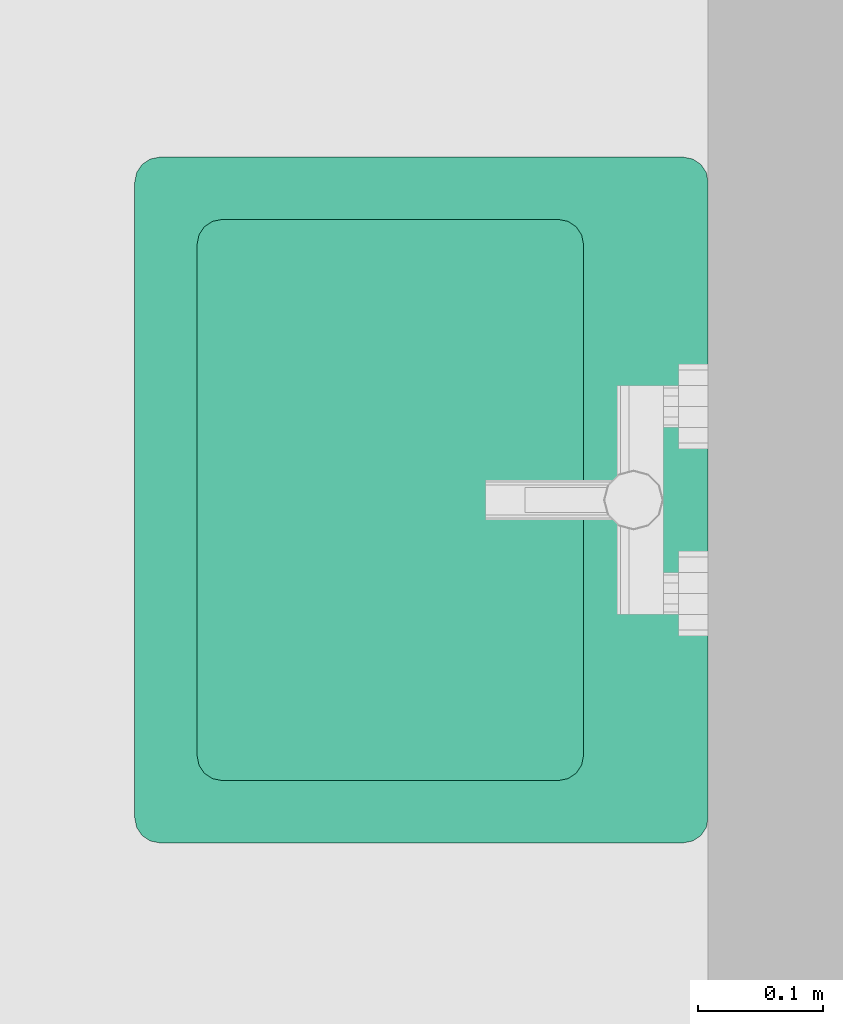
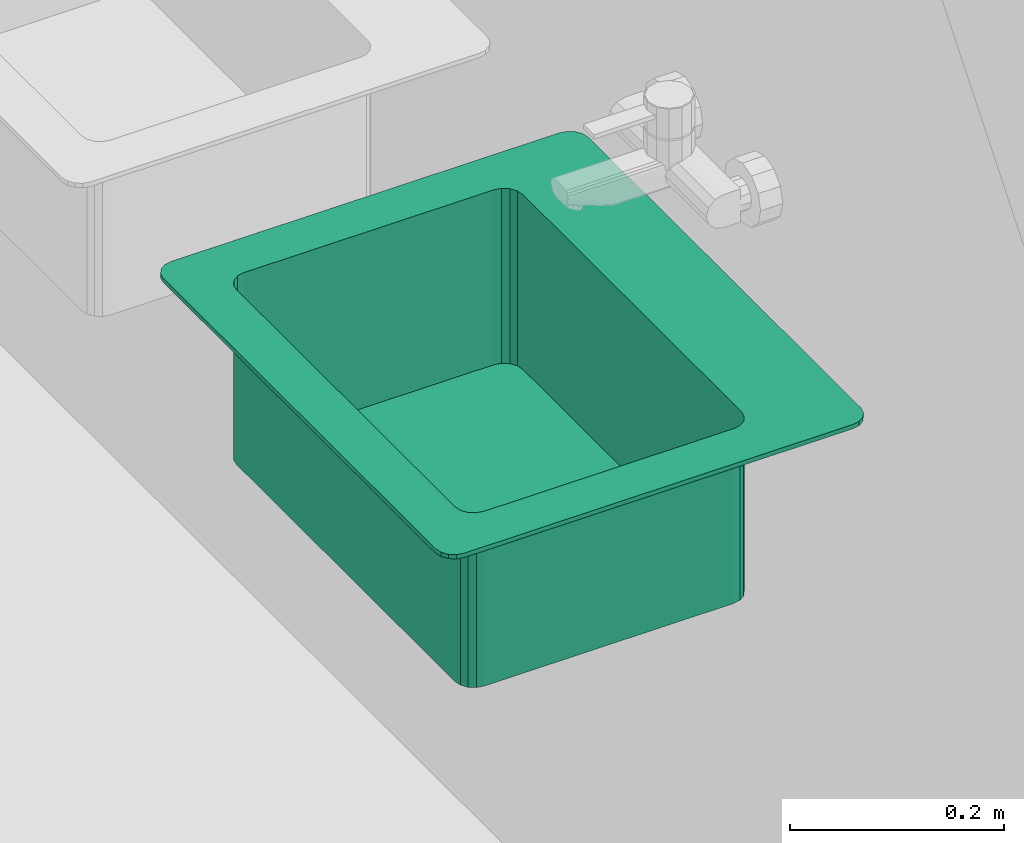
# One storey, part 249 of 301: 1 flow terminal.
"""IFC2X3 building model written with IfcOpenShell, lengths in millimetres."""

from ifc_helpers import new_model, entity, si_unit, converted_unit, derived_unit, money_unit, direction, frame, origin_with_axes, place, context, subcontext, project, spatial, open_shell, faceted_brep, surface_model, source, transform, mapped, type_object, element, save


model = new_model("IFC2X3")

# Units and contexts
model_context = context("Model", 3, precision=0.01, world=origin_with_axes(), true_north=direction((0.0, 1.0)))
body_context = subcontext(model_context, "Body", "Model", "MODEL_VIEW")
ifc_project = project(units=[si_unit("LENGTHUNIT", "METRE", prefix="MILLI"), si_unit("AREAUNIT", "SQUARE_METRE"), si_unit("VOLUMEUNIT", "CUBIC_METRE"), converted_unit("PLANEANGLEUNIT", "DEGREE", entity("IfcPlaneAngleMeasure", 0.0174532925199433), si_unit("PLANEANGLEUNIT", "RADIAN"), dimensions=[0, 0, 0, 0, 0, 0, 0]), money_unit("EUR"), converted_unit("TIMEUNIT", "Year", entity("IfcTimeMeasure", 31557600.0), si_unit("TIMEUNIT", "SECOND"), dimensions=[0, 0, 1, 0, 0, 0, 0]), si_unit("MASSUNIT", "GRAM", prefix="KILO"), si_unit("THERMODYNAMICTEMPERATUREUNIT", "DEGREE_CELSIUS"), si_unit("LUMINOUSINTENSITYUNIT", "LUMEN"), si_unit("ENERGYUNIT", "JOULE", prefix="MEGA"), derived_unit("THERMALCONDUCTANCEUNIT", [(si_unit("POWERUNIT", "WATT"), 1), (si_unit("LENGTHUNIT", "METRE"), -1), (si_unit("THERMODYNAMICTEMPERATUREUNIT", "KELVIN"), -1)]), derived_unit("SPECIFICHEATCAPACITYUNIT", [(si_unit("ENERGYUNIT", "JOULE"), 1), (si_unit("MASSUNIT", "GRAM", prefix="KILO"), -1), (si_unit("THERMODYNAMICTEMPERATUREUNIT", "KELVIN"), -1)]), derived_unit("MASSDENSITYUNIT", [(si_unit("MASSUNIT", "GRAM", prefix="KILO"), 1), (si_unit("VOLUMEUNIT", "CUBIC_METRE"), -1)])], contexts=[model_context])

# Site, building, storey
site_placement = place(None, frame((0.0, 0.0, 8650.0), z_axis=(0.0, 0.0, 1.0), x_axis=(1.0, 0.0, 0.0)))
site = spatial("IfcSite", under=ifc_project, at=site_placement, Name="43301:001:0844", CompositionType="ELEMENT")
building_placement = place(site_placement, origin_with_axes())
building = spatial("IfcBuilding", under=site, at=building_placement, Name="Kuressaare Ametikooli tuulikute mehaanikute õppekorpus", CompositionType="ELEMENT")
storey_placement = place(building_placement, origin_with_axes())
storey = spatial("IfcBuildingStorey", under=building, at=storey_placement, Name="1.korrus", CompositionType="ELEMENT", Elevation=0.0)

# Flow terminal
sanitary_terminal_type = type_object("IfcSanitaryTerminalType", Name="Sink General 27", PredefinedType="NOTDEFINED")
shared_shape = source(origin_with_axes(), body_context, "Body", "SurfaceModel", [
    surface_model("IfcShellBasedSurfaceModel", [(-70.0, 50.0, 705.0), (-70.0, 50.0, 899.9999999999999), (-479.9999999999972, 50.0, 899.9999999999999), (-479.9999999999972, 50.0, 705.0), (-62.34633135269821, 51.52240934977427, 705.0), (-62.34633135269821, 51.52240934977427, 899.9999999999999), (-487.6536686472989, 51.52240934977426, 899.9999999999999), (-487.6536686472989, 51.52240934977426, 705.0), (-494.1421356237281, 55.85786437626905, 705.0), (-498.4775906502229, 62.3463313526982, 705.0), (-499.9999999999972, 70.0, 705.0), (-499.9999999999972, 340.0000000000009, 705.0), (-498.4775906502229, 347.6536686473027, 705.0), (-494.1421356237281, 354.1421356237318, 705.0), (-487.653668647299, 358.4775906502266, 705.0), (-479.9999999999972, 360.0000000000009, 705.0), (-70.0, 360.0000000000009, 705.0), (-62.34633135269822, 358.4775906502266, 705.0), (-55.85786437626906, 354.1421356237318, 705.0), (-51.52240934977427, 347.6536686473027, 705.0), (-50.0, 340.0000000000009, 705.0), (-50.0, 70.0, 705.0), (-51.52240934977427, 62.34633135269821, 705.0), (-55.85786437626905, 55.85786437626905, 705.0), (-55.85786437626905, 55.85786437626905, 899.9999999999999), (-494.1421356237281, 55.85786437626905, 899.9999999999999), (-498.4775906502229, 62.3463313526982, 899.9999999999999), (-499.9999999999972, 70.0, 899.9999999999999), (-499.9999999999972, 340.0000000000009, 899.9999999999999), (-498.4775906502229, 347.6536686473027, 899.9999999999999), (-494.1421356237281, 354.1421356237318, 899.9999999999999), (-487.653668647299, 358.4775906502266, 899.9999999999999), (-479.9999999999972, 360.0000000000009, 899.9999999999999), (-70.0, 360.0000000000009, 899.9999999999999), (-62.34633135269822, 358.4775906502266, 899.9999999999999), (-55.85786437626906, 354.1421356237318, 899.9999999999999), (-51.52240934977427, 347.6536686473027, 899.9999999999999), (-50.0, 340.0000000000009, 899.9999999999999), (-50.0, 70.0, 899.9999999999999), (-51.52240934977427, 62.34633135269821, 899.9999999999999)], [open_shell([[[0, 1, 2, 3]], [[4, 5, 1, 0]], [[3, 2, 6, 7]], [[0, 3, 7, 8, 9, 10, 11, 12, 13, 14, 15, 16, 17, 18, 19, 20, 21, 22, 23, 4]], [[23, 24, 5, 4]], [[7, 6, 25, 8]], [[8, 25, 26, 9]], [[9, 26, 27, 10]], [[10, 27, 28, 11]], [[11, 28, 29, 12]], [[12, 29, 30, 13]], [[13, 30, 31, 14]], [[14, 31, 32, 15]], [[15, 32, 33, 16]], [[16, 33, 34, 17]], [[17, 34, 35, 18]], [[18, 35, 36, 19]], [[19, 36, 37, 20]], [[20, 37, 38, 21]], [[21, 38, 39, 22]], [[22, 39, 24, 23]]])]),
    faceted_brep([(-20.0, 0.0, 899.9999999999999), (-20.0, 0.0, 904.9999999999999), (-529.9999999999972, 0.0, 904.9999999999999), (-529.9999999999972, 0.0, 899.9999999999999), (-12.34633135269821, 1.522409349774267, 899.9999999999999), (-12.34633135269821, 1.522409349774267, 904.9999999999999), (-5.857864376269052, 5.857864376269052, 904.9999999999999), (-1.522409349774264, 12.34633135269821, 904.9999999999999), (0.0, 20.0, 904.9999999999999), (0.0, 440.0000000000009, 904.9999999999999), (-1.522409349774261, 447.6536686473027, 904.9999999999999), (-5.85786437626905, 454.1421356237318, 904.9999999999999), (-12.34633135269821, 458.4775906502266, 904.9999999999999), (-20.0, 460.0000000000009, 904.9999999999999), (-529.9999999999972, 460.0000000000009, 904.9999999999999), (-537.6536686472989, 458.4775906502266, 904.9999999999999), (-544.1421356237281, 454.1421356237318, 904.9999999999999), (-548.4775906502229, 447.6536686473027, 904.9999999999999), (-549.9999999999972, 440.0000000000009, 904.9999999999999), (-549.9999999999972, 20.0, 904.9999999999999), (-548.4775906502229, 12.3463313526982, 904.9999999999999), (-544.142135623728, 5.857864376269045, 904.9999999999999), (-537.6536686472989, 1.522409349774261, 904.9999999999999), (-70.0, 50.0, 904.9999999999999), (-479.9999999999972, 50.0, 904.9999999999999), (-487.6536686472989, 51.52240934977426, 904.9999999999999), (-494.1421356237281, 55.85786437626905, 904.9999999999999), (-498.4775906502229, 62.3463313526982, 904.9999999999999), (-499.9999999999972, 70.0, 904.9999999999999), (-499.9999999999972, 340.0000000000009, 904.9999999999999), (-498.4775906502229, 347.6536686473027, 904.9999999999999), (-494.1421356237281, 354.1421356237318, 904.9999999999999), (-487.653668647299, 358.4775906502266, 904.9999999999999), (-479.9999999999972, 360.0000000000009, 904.9999999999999), (-70.0, 360.0000000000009, 904.9999999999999), (-62.34633135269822, 358.4775906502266, 904.9999999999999), (-55.85786437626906, 354.1421356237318, 904.9999999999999), (-51.52240934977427, 347.6536686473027, 904.9999999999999), (-50.0, 340.0000000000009, 904.9999999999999), (-50.0, 70.0, 904.9999999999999), (-51.52240934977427, 62.34633135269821, 904.9999999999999), (-55.85786437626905, 55.85786437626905, 904.9999999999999), (-62.34633135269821, 51.52240934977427, 904.9999999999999), (-537.6536686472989, 1.522409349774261, 899.9999999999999), (-544.142135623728, 5.857864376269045, 899.9999999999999), (-548.4775906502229, 12.3463313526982, 899.9999999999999), (-549.9999999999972, 20.0, 899.9999999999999), (-549.9999999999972, 440.0000000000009, 899.9999999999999), (-548.4775906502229, 447.6536686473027, 899.9999999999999), (-544.1421356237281, 454.1421356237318, 899.9999999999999), (-537.6536686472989, 458.4775906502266, 899.9999999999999), (-529.9999999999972, 460.0000000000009, 899.9999999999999), (-20.0, 460.0000000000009, 899.9999999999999), (-12.34633135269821, 458.4775906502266, 899.9999999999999), (-5.85786437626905, 454.1421356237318, 899.9999999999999), (-1.522409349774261, 447.6536686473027, 899.9999999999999), (0.0, 440.0000000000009, 899.9999999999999), (0.0, 20.0, 899.9999999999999), (-1.522409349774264, 12.34633135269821, 899.9999999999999), (-5.857864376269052, 5.857864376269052, 899.9999999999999), (-70.0, 50.0, 899.9999999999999), (-62.34633135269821, 51.52240934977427, 899.9999999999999), (-55.85786437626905, 55.85786437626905, 899.9999999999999), (-51.52240934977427, 62.34633135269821, 899.9999999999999), (-50.0, 70.0, 899.9999999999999), (-50.0, 340.0000000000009, 899.9999999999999), (-51.52240934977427, 347.6536686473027, 899.9999999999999), (-55.85786437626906, 354.1421356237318, 899.9999999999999), (-62.34633135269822, 358.4775906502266, 899.9999999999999), (-70.0, 360.0000000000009, 899.9999999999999), (-479.9999999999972, 360.0000000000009, 899.9999999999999), (-487.653668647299, 358.4775906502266, 899.9999999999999), (-494.1421356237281, 354.1421356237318, 899.9999999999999), (-498.4775906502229, 347.6536686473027, 899.9999999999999), (-499.9999999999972, 340.0000000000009, 899.9999999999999), (-499.9999999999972, 70.0, 899.9999999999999), (-498.4775906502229, 62.3463313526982, 899.9999999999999), (-494.1421356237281, 55.85786437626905, 899.9999999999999), (-487.6536686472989, 51.52240934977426, 899.9999999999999), (-479.9999999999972, 50.0, 899.9999999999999)], [[[0, 1, 2, 3]], [[4, 5, 1, 0]], [[1, 5, 6, 7, 8, 9, 10, 11, 12, 13, 14, 15, 16, 17, 18, 19, 20, 21, 22, 2], [23, 24, 25, 26, 27, 28, 29, 30, 31, 32, 33, 34, 35, 36, 37, 38, 39, 40, 41, 42]], [[3, 2, 22, 43]], [[0, 3, 43, 44, 45, 46, 47, 48, 49, 50, 51, 52, 53, 54, 55, 56, 57, 58, 59, 4], [60, 61, 62, 63, 64, 65, 66, 67, 68, 69, 70, 71, 72, 73, 74, 75, 76, 77, 78, 79]], [[59, 6, 5, 4]], [[58, 7, 6, 59]], [[57, 8, 7, 58]], [[56, 9, 8, 57]], [[55, 10, 9, 56]], [[54, 11, 10, 55]], [[53, 12, 11, 54]], [[52, 13, 12, 53]], [[51, 14, 13, 52]], [[50, 15, 14, 51]], [[49, 16, 15, 50]], [[48, 17, 16, 49]], [[47, 18, 17, 48]], [[46, 19, 18, 47]], [[45, 20, 19, 46]], [[44, 21, 20, 45]], [[43, 22, 21, 44]], [[79, 24, 23, 60]], [[78, 25, 24, 79]], [[77, 26, 25, 78]], [[76, 27, 26, 77]], [[75, 28, 27, 76]], [[74, 29, 28, 75]], [[73, 30, 29, 74]], [[72, 31, 30, 73]], [[71, 32, 31, 72]], [[70, 33, 32, 71]], [[69, 34, 33, 70]], [[68, 35, 34, 69]], [[67, 36, 35, 68]], [[66, 37, 36, 67]], [[65, 38, 37, 66]], [[64, 39, 38, 65]], [[63, 40, 39, 64]], [[62, 41, 40, 63]], [[61, 42, 41, 62]], [[60, 23, 42, 61]]]),
])
flow_terminal_placement = place(storey_placement, frame((100517.9522847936, 18789.793678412, 0.0), z_axis=(0.0, 0.0, 1.0), x_axis=(0.0, -1.0, 0.0)))
element("IfcFlowTerminal", 1, at=flow_terminal_placement, inside=storey, type_object=sanitary_terminal_type, Name="V3", context=body_context, shape_type="MappedRepresentation", body=[
    mapped(shared_shape, transform((0.0, 0.0, 0.0))),
])

save(model, "model.ifc")
